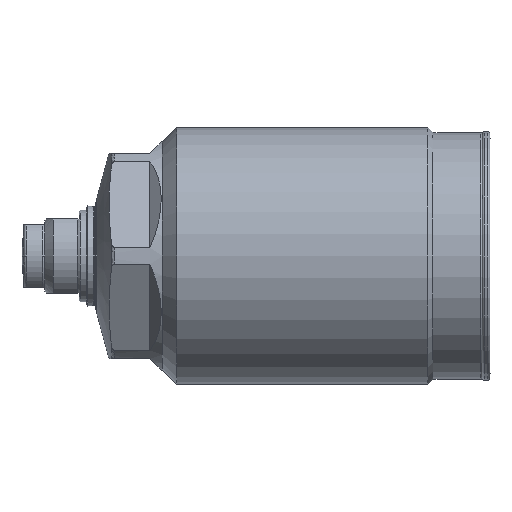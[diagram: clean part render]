
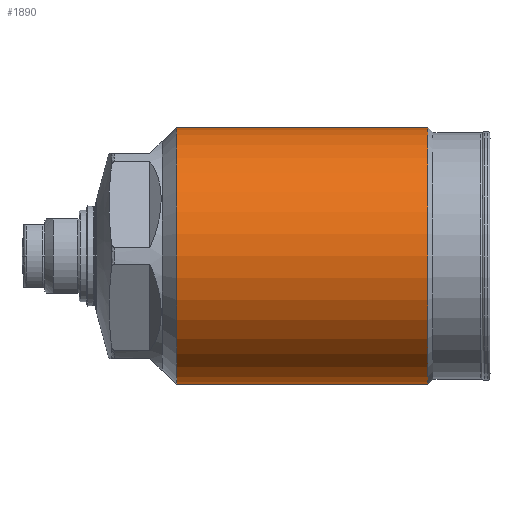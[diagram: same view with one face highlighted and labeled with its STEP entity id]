
A CAD part, left-side view. The second image highlights one B-rep face of the part: STEP entity #1890.
In plain terms, the highlighted cylindrical face has radius 22.5 mm (diameter 45 mm), a partial arc.
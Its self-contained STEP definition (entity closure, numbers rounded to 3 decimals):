
#1137=CYLINDRICAL_SURFACE('',#6430,22.5);
#1399=LINE('',#9703,#1698);
#1400=LINE('',#9707,#1699);
#1698=VECTOR('',#7726,1.);
#1699=VECTOR('',#7729,1.);
#1890=ADVANCED_FACE('',(#2327),#1137,.T.);
#2327=FACE_OUTER_BOUND('',#2687,.T.);
#2687=EDGE_LOOP('',(#3440,#3441,#3442,#3443));
#3440=ORIENTED_EDGE('',*,*,#5320,.T.);
#3441=ORIENTED_EDGE('',*,*,#5322,.F.);
#3442=ORIENTED_EDGE('',*,*,#5323,.F.);
#3443=ORIENTED_EDGE('',*,*,#5324,.T.);
#4782=VERTEX_POINT('',#9698);
#4783=VERTEX_POINT('',#9700);
#4784=VERTEX_POINT('',#9704);
#4785=VERTEX_POINT('',#9706);
#5320=EDGE_CURVE('',#4783,#4782,#5873,.T.);
#5322=EDGE_CURVE('',#4784,#4782,#1399,.T.);
#5323=EDGE_CURVE('',#4785,#4784,#5874,.T.);
#5324=EDGE_CURVE('',#4785,#4783,#1400,.T.);
#5873=CIRCLE('',#6427,22.5);
#5874=CIRCLE('',#6429,22.5);
#6427=AXIS2_PLACEMENT_3D('',#9699,#7721,#7722);
#6429=AXIS2_PLACEMENT_3D('',#9705,#7727,#7728);
#6430=AXIS2_PLACEMENT_3D('',#9708,#7730,#7731);
#7721=DIRECTION('',(0.,-1.,0.));
#7722=DIRECTION('',(0.,0.,-1.));
#7726=DIRECTION('',(0.,1.,0.));
#7727=DIRECTION('',(0.,-1.,0.));
#7728=DIRECTION('',(0.,0.,-1.));
#7729=DIRECTION('',(0.,1.,0.));
#7730=DIRECTION('',(0.,-1.,0.));
#7731=DIRECTION('',(0.,0.,1.));
#9698=CARTESIAN_POINT('',(0.,62.023,22.5));
#9699=CARTESIAN_POINT('',(0.,62.023,0.));
#9700=CARTESIAN_POINT('',(0.,62.023,-22.5));
#9703=CARTESIAN_POINT('',(0.,0.,22.5));
#9704=CARTESIAN_POINT('',(0.,18.023,22.5));
#9705=CARTESIAN_POINT('',(0.,18.023,0.));
#9706=CARTESIAN_POINT('',(0.,18.023,-22.5));
#9707=CARTESIAN_POINT('',(0.,0.,-22.5));
#9708=CARTESIAN_POINT('',(0.,0.,0.));
